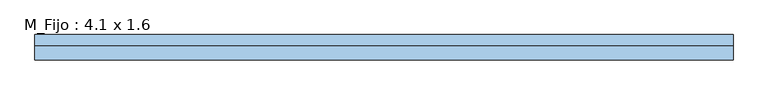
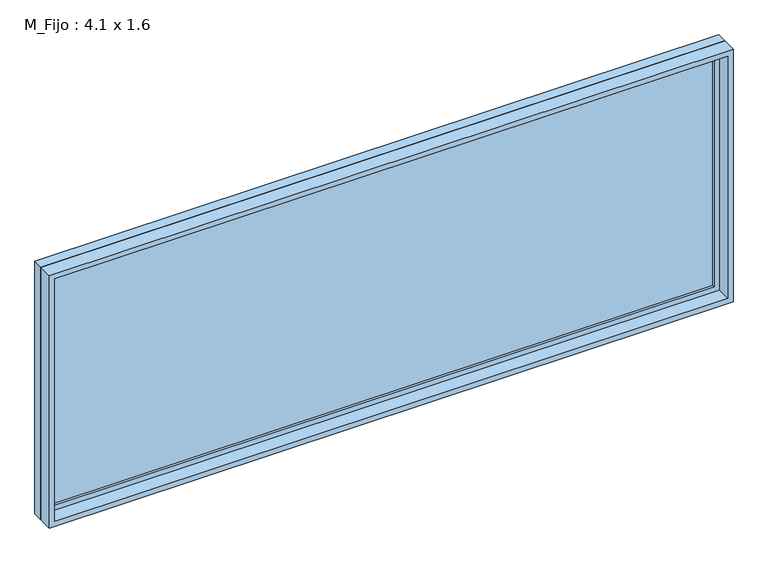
"""IFC4 building model written with IfcOpenShell, lengths in millimetres: window geometry, M_Fijo : 4.1 x 1.6."""

from ifc_helpers import new_model, si_unit, frame, origin, place, context, project, spatial, polyline, outline, extrude, source, transform, mapped, element, save


def m_fijo_4_1_x_1_6_05132500(model_context):
    return source(origin(), model_context, "Body", "SweptSolid", [
        extrude(outline(polyline([(-1987.0, 53.0), (1987.0, 53.0), (1987.0, 41.0), (-1987.0, 41.0), (-1987.0, 53.0)])), frame((0.0, 0.0, 978.0), z_axis=(0.0, 0.0, 1.0), x_axis=(1.0, 0.0, 0.0)), (0.0, 0.0, 1.0), 1474.0),
        extrude(outline(polyline([(2496.0, -2031.0), (934.0, -2031.0), (934.0, 2031.0), (2496.0, 2031.0), (2496.0, -2031.0)]), holes=[polyline([(2452.0, -1987.0), (2452.0, 1987.0), (978.0, 1987.0), (978.0, -1987.0), (2452.0, -1987.0)])]), frame((0.0, 25.0, 0.0), z_axis=(0.0, 1.0, 0.0), x_axis=(0.0, 0.0, 1.0)), (0.0, 0.0, 1.0), 44.0),
        extrude(outline(polyline([(2515.0, -2050.0), (915.0, -2050.0), (915.0, 2050.0), (2515.0, 2050.0), (2515.0, -2050.0)]), holes=[polyline([(2496.0, -2031.0), (2496.0, 2031.0), (934.0, 2031.0), (934.0, -2031.0), (2496.0, -2031.0)])]), frame((0.0, 25.0, 0.0), z_axis=(0.0, 1.0, 0.0), x_axis=(0.0, 0.0, 1.0)), (0.0, 0.0, 1.0), 63.0),
        extrude(outline(polyline([(2515.0, -2050.0), (915.0, -2050.0), (915.0, 2050.0), (2515.0, 2050.0), (2515.0, -2050.0)]), holes=[polyline([(2483.0, -2018.0), (2483.0, 2018.0), (947.0, 2018.0), (947.0, -2018.0), (2483.0, -2018.0)])]), frame((0.0, -62.0, 0.0), z_axis=(0.0, 1.0, 0.0), x_axis=(0.0, 0.0, 1.0)), (0.0, 0.0, 1.0), 87.0),
    ])


if __name__ == "__main__":
    model = new_model("IFC4")
    model_context = context("Model", 3, world=origin())
    ifc_project = project(units=[si_unit("LENGTHUNIT", "METRE", prefix="MILLI")], contexts=[model_context])
    site = spatial("IfcSite", under=ifc_project)
    building = spatial("IfcBuilding", under=site)
    placement = place(None, origin())
    m_fijo_4_1_x_1_6_shape = m_fijo_4_1_x_1_6_05132500(model_context)
    element("IfcWindow", 1, ObjectType="M_Fijo : 4.1 x 1.6", at=placement, inside=building, context=model_context, shape_type="MappedRepresentation", body=[
        mapped(m_fijo_4_1_x_1_6_shape, transform((0.0, 0.0, 0.0), x_axis=(1.0, 0.0, 0.0), y_axis=(0.0, 1.0, 0.0), z_axis=(0.0, 0.0, 1.0))),
    ])
    save(model, "model.ifc")
